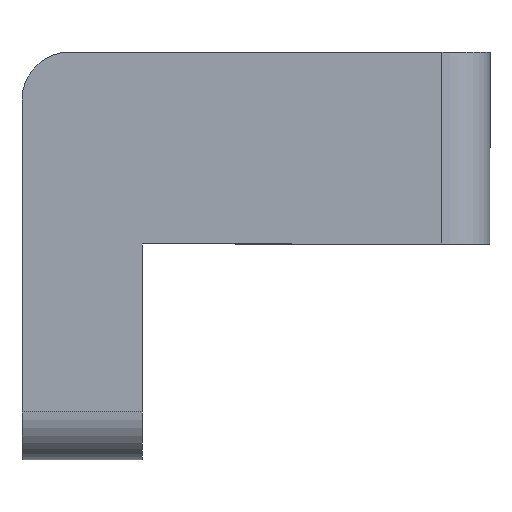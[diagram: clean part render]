
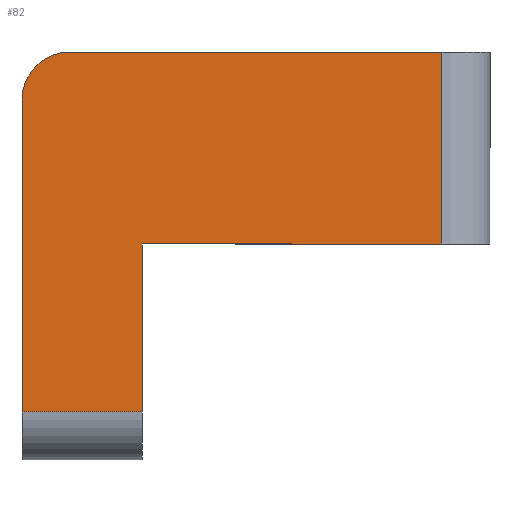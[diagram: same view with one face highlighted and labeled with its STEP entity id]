
A CAD part, left-side view. The second image highlights one B-rep face of the part: STEP entity #82.
In plain terms, the highlighted planar face has unit normal (-1, 0, 0).
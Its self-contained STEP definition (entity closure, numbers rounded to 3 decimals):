
#2 = EDGE_CURVE ( 'NONE', #760, #747, #802, .T. ) ;
#6 = DIRECTION ( 'NONE',  ( 0., 0., 1. ) ) ;
#9 = FACE_OUTER_BOUND ( 'NONE', #106, .T. ) ;
#10 = VECTOR ( 'NONE', #286, 1000. ) ;
#18 = CARTESIAN_POINT ( 'NONE',  ( 0., 17.5, 6. ) ) ;
#27 = LINE ( 'NONE', #261, #29 ) ;
#29 = VECTOR ( 'NONE', #366, 1000. ) ;
#82 = ADVANCED_FACE ( 'NONE', ( #9 ), #651, .T. ) ;
#89 = CIRCLE ( 'NONE', #388, 2. ) ;
#106 = EDGE_LOOP ( 'NONE', ( #378, #739, #502, #143, #541, #749, #553 ) ) ;
#108 = LINE ( 'NONE', #511, #122 ) ;
#111 = AXIS2_PLACEMENT_3D ( 'NONE', #343, #519, #6 ) ;
#112 = VERTEX_POINT ( 'NONE', #789 ) ;
#122 = VECTOR ( 'NONE', #579, 1000. ) ;
#143 = ORIENTED_EDGE ( 'NONE', *, *, #536, .T. ) ;
#181 = VERTEX_POINT ( 'NONE', #636 ) ;
#240 = CARTESIAN_POINT ( 'NONE',  ( 0., 2., 8. ) ) ;
#252 = EDGE_CURVE ( 'NONE', #462, #353, #578, .T. ) ;
#261 = CARTESIAN_POINT ( 'NONE',  ( 0., 14.5, -7. ) ) ;
#286 = DIRECTION ( 'NONE',  ( 0., -1., 0. ) ) ;
#295 = CARTESIAN_POINT ( 'NONE',  ( 0., 14.5, -7. ) ) ;
#299 = VECTOR ( 'NONE', #566, 1000. ) ;
#334 = DIRECTION ( 'NONE',  ( -1., 0., 0. ) ) ;
#343 = CARTESIAN_POINT ( 'NONE',  ( 0., 0., 0. ) ) ;
#353 = VERTEX_POINT ( 'NONE', #716 ) ;
#355 = DIRECTION ( 'NONE',  ( 0., 0., -1. ) ) ;
#361 = CARTESIAN_POINT ( 'NONE',  ( 0., 2., 0. ) ) ;
#366 = DIRECTION ( 'NONE',  ( 0., -1., 0. ) ) ;
#374 = CARTESIAN_POINT ( 'NONE',  ( 0., 19.5, 8. ) ) ;
#378 = ORIENTED_EDGE ( 'NONE', *, *, #252, .F. ) ;
#387 = LINE ( 'NONE', #374, #669 ) ;
#388 = AXIS2_PLACEMENT_3D ( 'NONE', #18, #334, #513 ) ;
#416 = VERTEX_POINT ( 'NONE', #361 ) ;
#452 = EDGE_CURVE ( 'NONE', #112, #181, #387, .T. ) ;
#462 = VERTEX_POINT ( 'NONE', #595 ) ;
#485 = CARTESIAN_POINT ( 'NONE',  ( 0., 14.5, -9. ) ) ;
#502 = ORIENTED_EDGE ( 'NONE', *, *, #452, .F. ) ;
#504 = VECTOR ( 'NONE', #355, 1000. ) ;
#511 = CARTESIAN_POINT ( 'NONE',  ( 0., 14.5, 0. ) ) ;
#513 = DIRECTION ( 'NONE',  ( 0., 0., 1. ) ) ;
#519 = DIRECTION ( 'NONE',  ( -1., 0., 0. ) ) ;
#536 = EDGE_CURVE ( 'NONE', #112, #747, #27, .T. ) ;
#541 = ORIENTED_EDGE ( 'NONE', *, *, #2, .F. ) ;
#542 = EDGE_CURVE ( 'NONE', #416, #353, #584, .T. ) ;
#553 = ORIENTED_EDGE ( 'NONE', *, *, #542, .T. ) ;
#556 = EDGE_CURVE ( 'NONE', #416, #760, #108, .T. ) ;
#566 = DIRECTION ( 'NONE',  ( 0., 0., 1. ) ) ;
#578 = LINE ( 'NONE', #741, #10 ) ;
#579 = DIRECTION ( 'NONE',  ( 0., 1., 0. ) ) ;
#584 = LINE ( 'NONE', #240, #299 ) ;
#595 = CARTESIAN_POINT ( 'NONE',  ( 0., 17.5, 8. ) ) ;
#632 = DIRECTION ( 'NONE',  ( 0., 0., 1. ) ) ;
#636 = CARTESIAN_POINT ( 'NONE',  ( 0., 19.5, 6. ) ) ;
#651 = PLANE ( 'NONE',  #111 ) ;
#667 = CARTESIAN_POINT ( 'NONE',  ( 0., 14.5, 0. ) ) ;
#669 = VECTOR ( 'NONE', #632, 1000. ) ;
#716 = CARTESIAN_POINT ( 'NONE',  ( 0., 2., 8. ) ) ;
#739 = ORIENTED_EDGE ( 'NONE', *, *, #765, .T. ) ;
#741 = CARTESIAN_POINT ( 'NONE',  ( 0., 0., 8. ) ) ;
#747 = VERTEX_POINT ( 'NONE', #295 ) ;
#749 = ORIENTED_EDGE ( 'NONE', *, *, #556, .F. ) ;
#760 = VERTEX_POINT ( 'NONE', #667 ) ;
#765 = EDGE_CURVE ( 'NONE', #462, #181, #89, .T. ) ;
#789 = CARTESIAN_POINT ( 'NONE',  ( 0., 19.5, -7. ) ) ;
#802 = LINE ( 'NONE', #485, #504 ) ;
